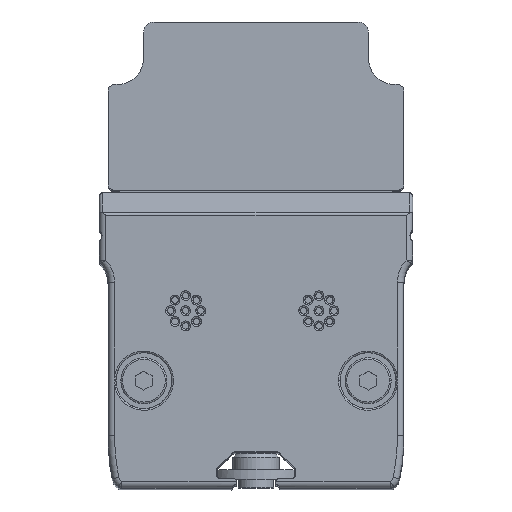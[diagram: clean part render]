
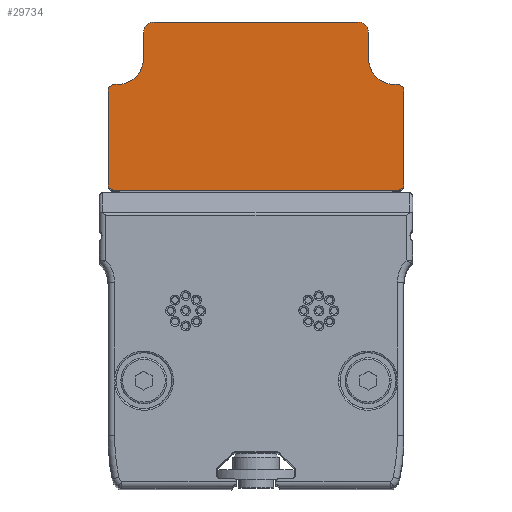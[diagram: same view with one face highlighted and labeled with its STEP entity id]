
A CAD part, top view. The second image highlights one B-rep face of the part: STEP entity #29734.
In plain terms, the highlighted planar face has unit normal (0, 0, 1).
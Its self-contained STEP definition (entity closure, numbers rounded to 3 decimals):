
#465 = CARTESIAN_POINT ( 'NONE',  ( 17.1, 0., 129. ) ) ;
#472 = DIRECTION ( 'NONE',  ( 0., 0., 1. ) ) ;
#539 = ORIENTED_EDGE ( 'NONE', *, *, #11176, .F. ) ;
#542 = DIRECTION ( 'NONE',  ( 0., 0., -1. ) ) ;
#615 = CARTESIAN_POINT ( 'NONE',  ( 17.1, 46.8, 129. ) ) ;
#768 = CARTESIAN_POINT ( 'NONE',  ( -17.1, 0., 129. ) ) ;
#1121 = VECTOR ( 'NONE', #17189, 1000. ) ;
#1289 = VERTEX_POINT ( 'NONE', #27738 ) ;
#1434 = ORIENTED_EDGE ( 'NONE', *, *, #31831, .T. ) ;
#1476 = LINE ( 'NONE', #24466, #8062 ) ;
#1670 = CARTESIAN_POINT ( 'NONE',  ( -22.5, 0., 129. ) ) ;
#1734 = CARTESIAN_POINT ( 'NONE',  ( 21.5, 38.9, 129. ) ) ;
#2101 = CARTESIAN_POINT ( 'NONE',  ( 22.5, 0., 129. ) ) ;
#2469 = ORIENTED_EDGE ( 'NONE', *, *, #21567, .F. ) ;
#2524 = VERTEX_POINT ( 'NONE', #20756 ) ;
#3177 = CARTESIAN_POINT ( 'NONE',  ( 0., 38.9, 129. ) ) ;
#3727 = CIRCLE ( 'NONE', #13192, 1. ) ;
#3848 = VERTEX_POINT ( 'NONE', #31940 ) ;
#4184 = DIRECTION ( 'NONE',  ( 0., 0., 1. ) ) ;
#4240 = ORIENTED_EDGE ( 'NONE', *, *, #14660, .F. ) ;
#4267 = CIRCLE ( 'NONE', #22744, 4. ) ;
#4474 = VERTEX_POINT ( 'NONE', #28626 ) ;
#4670 = VERTEX_POINT ( 'NONE', #14869 ) ;
#4756 = ORIENTED_EDGE ( 'NONE', *, *, #8715, .T. ) ;
#5017 = EDGE_CURVE ( 'NONE', #3848, #12443, #32694, .T. ) ;
#5363 = DIRECTION ( 'NONE',  ( 1., 0., 0. ) ) ;
#5492 = ORIENTED_EDGE ( 'NONE', *, *, #16455, .T. ) ;
#5756 = CARTESIAN_POINT ( 'NONE',  ( -22.5, 23.8, 129. ) ) ;
#6635 = CARTESIAN_POINT ( 'NONE',  ( -21.5, 22.8, 129. ) ) ;
#7107 = DIRECTION ( 'NONE',  ( 1., 0., 0. ) ) ;
#7149 = ORIENTED_EDGE ( 'NONE', *, *, #30581, .T. ) ;
#7240 = EDGE_CURVE ( 'NONE', #25825, #18856, #9662, .T. ) ;
#7390 = LINE ( 'NONE', #15478, #12830 ) ;
#7661 = EDGE_CURVE ( 'NONE', #4670, #9306, #7390, .T. ) ;
#7929 = VERTEX_POINT ( 'NONE', #25050 ) ;
#8062 = VECTOR ( 'NONE', #29436, 1000. ) ;
#8241 = ORIENTED_EDGE ( 'NONE', *, *, #5017, .T. ) ;
#8365 = LINE ( 'NONE', #768, #9465 ) ;
#8715 = EDGE_CURVE ( 'NONE', #4670, #3848, #20806, .T. ) ;
#8772 = DIRECTION ( 'NONE',  ( -1., 0., 0. ) ) ;
#8867 = VERTEX_POINT ( 'NONE', #25059 ) ;
#9264 = CARTESIAN_POINT ( 'NONE',  ( 21.5, 37.9, 129. ) ) ;
#9306 = VERTEX_POINT ( 'NONE', #6635 ) ;
#9465 = VECTOR ( 'NONE', #28882, 1000. ) ;
#9662 = CIRCLE ( 'NONE', #24974, 1.6 ) ;
#9969 = PLANE ( 'NONE',  #15812 ) ;
#10076 = CIRCLE ( 'NONE', #26968, 1. ) ;
#11176 = EDGE_CURVE ( 'NONE', #16381, #7929, #12459, .T. ) ;
#11253 = CARTESIAN_POINT ( 'NONE',  ( -15.5, 46.8, 129. ) ) ;
#11969 = CARTESIAN_POINT ( 'NONE',  ( -21.5, 38.9, 129. ) ) ;
#12443 = VERTEX_POINT ( 'NONE', #14084 ) ;
#12459 = CIRCLE ( 'NONE', #28296, 1.6 ) ;
#12830 = VECTOR ( 'NONE', #12995, 1000. ) ;
#12940 = DIRECTION ( 'NONE',  ( 0., 0., -1. ) ) ;
#12995 = DIRECTION ( 'NONE',  ( -1., 0., 0. ) ) ;
#13029 = DIRECTION ( 'NONE',  ( 1., 0., 0. ) ) ;
#13087 = LINE ( 'NONE', #3177, #21215 ) ;
#13108 = DIRECTION ( 'NONE',  ( 0., 0., -1. ) ) ;
#13192 = AXIS2_PLACEMENT_3D ( 'NONE', #9264, #14386, #7107 ) ;
#14084 = CARTESIAN_POINT ( 'NONE',  ( 22.5, 37.9, 129. ) ) ;
#14264 = DIRECTION ( 'NONE',  ( 1., 0., 0. ) ) ;
#14386 = DIRECTION ( 'NONE',  ( 0., 0., 1. ) ) ;
#14660 = EDGE_CURVE ( 'NONE', #18856, #1289, #23116, .T. ) ;
#14679 = VERTEX_POINT ( 'NONE', #5756 ) ;
#14869 = CARTESIAN_POINT ( 'NONE',  ( 21.5, 22.8, 129. ) ) ;
#15478 = CARTESIAN_POINT ( 'NONE',  ( 0., 22.8, 129. ) ) ;
#15725 = ORIENTED_EDGE ( 'NONE', *, *, #18777, .T. ) ;
#15733 = DIRECTION ( 'NONE',  ( -1., 0., 0. ) ) ;
#15812 = AXIS2_PLACEMENT_3D ( 'NONE', #17583, #23851, #15733 ) ;
#15913 = AXIS2_PLACEMENT_3D ( 'NONE', #17803, #21101, #21273 ) ;
#16166 = EDGE_CURVE ( 'NONE', #16381, #4474, #8365, .T. ) ;
#16283 = VECTOR ( 'NONE', #32377, 1000. ) ;
#16381 = VERTEX_POINT ( 'NONE', #20727 ) ;
#16455 = EDGE_CURVE ( 'NONE', #4474, #8867, #4267, .T. ) ;
#16954 = DIRECTION ( 'NONE',  ( 0., 0., 1. ) ) ;
#17125 = EDGE_CURVE ( 'NONE', #12443, #23379, #3727, .T. ) ;
#17189 = DIRECTION ( 'NONE',  ( 0., 1., 0. ) ) ;
#17271 = EDGE_CURVE ( 'NONE', #23408, #17704, #30652, .T. ) ;
#17351 = LINE ( 'NONE', #1670, #1121 ) ;
#17502 = CIRCLE ( 'NONE', #15913, 4. ) ;
#17583 = CARTESIAN_POINT ( 'NONE',  ( 0., 0., 129. ) ) ;
#17595 = DIRECTION ( 'NONE',  ( -1., 0., 0. ) ) ;
#17704 = VERTEX_POINT ( 'NONE', #18735 ) ;
#17803 = CARTESIAN_POINT ( 'NONE',  ( 21.1, 42.9, 129. ) ) ;
#18245 = EDGE_CURVE ( 'NONE', #14679, #17704, #17351, .T. ) ;
#18693 = AXIS2_PLACEMENT_3D ( 'NONE', #28385, #16954, #19431 ) ;
#18735 = CARTESIAN_POINT ( 'NONE',  ( -22.5, 37.9, 129. ) ) ;
#18777 = EDGE_CURVE ( 'NONE', #2524, #1289, #17502, .T. ) ;
#18856 = VERTEX_POINT ( 'NONE', #615 ) ;
#19431 = DIRECTION ( 'NONE',  ( 1., 0., 0. ) ) ;
#19448 = ORIENTED_EDGE ( 'NONE', *, *, #7240, .F. ) ;
#20727 = CARTESIAN_POINT ( 'NONE',  ( -17.1, 46.8, 129. ) ) ;
#20756 = CARTESIAN_POINT ( 'NONE',  ( 21.1, 38.9, 129. ) ) ;
#20806 = CIRCLE ( 'NONE', #18693, 1. ) ;
#21101 = DIRECTION ( 'NONE',  ( 0., 0., -1. ) ) ;
#21126 = ORIENTED_EDGE ( 'NONE', *, *, #16166, .T. ) ;
#21215 = VECTOR ( 'NONE', #28309, 1000. ) ;
#21273 = DIRECTION ( 'NONE',  ( 1., 0., 0. ) ) ;
#21549 = EDGE_LOOP ( 'NONE', ( #2469, #27355, #26090, #7149, #32182, #4756, #8241, #23685, #1434, #15725, #4240, #19448, #28629, #539, #21126, #5492 ) ) ;
#21567 = EDGE_CURVE ( 'NONE', #23408, #8867, #21969, .T. ) ;
#21969 = LINE ( 'NONE', #26284, #29296 ) ;
#22635 = DIRECTION ( 'NONE',  ( 0., -1., 0. ) ) ;
#22640 = CARTESIAN_POINT ( 'NONE',  ( -21.5, 37.9, 129. ) ) ;
#22701 = EDGE_CURVE ( 'NONE', #25825, #7929, #1476, .T. ) ;
#22744 = AXIS2_PLACEMENT_3D ( 'NONE', #22884, #13108, #5363 ) ;
#22884 = CARTESIAN_POINT ( 'NONE',  ( -21.1, 42.9, 129. ) ) ;
#23116 = LINE ( 'NONE', #465, #29601 ) ;
#23142 = CARTESIAN_POINT ( 'NONE',  ( 15.5, 48.4, 129. ) ) ;
#23379 = VERTEX_POINT ( 'NONE', #1734 ) ;
#23408 = VERTEX_POINT ( 'NONE', #11969 ) ;
#23685 = ORIENTED_EDGE ( 'NONE', *, *, #17125, .T. ) ;
#23851 = DIRECTION ( 'NONE',  ( 0., 0., 1. ) ) ;
#24466 = CARTESIAN_POINT ( 'NONE',  ( 0., 48.4, 129. ) ) ;
#24974 = AXIS2_PLACEMENT_3D ( 'NONE', #25197, #12940, #17595 ) ;
#25050 = CARTESIAN_POINT ( 'NONE',  ( -15.5, 48.4, 129. ) ) ;
#25059 = CARTESIAN_POINT ( 'NONE',  ( -21.1, 38.9, 129. ) ) ;
#25197 = CARTESIAN_POINT ( 'NONE',  ( 15.5, 46.8, 129. ) ) ;
#25825 = VERTEX_POINT ( 'NONE', #23142 ) ;
#26090 = ORIENTED_EDGE ( 'NONE', *, *, #18245, .F. ) ;
#26284 = CARTESIAN_POINT ( 'NONE',  ( 0., 38.9, 129. ) ) ;
#26968 = AXIS2_PLACEMENT_3D ( 'NONE', #29337, #4184, #14264 ) ;
#27355 = ORIENTED_EDGE ( 'NONE', *, *, #17271, .T. ) ;
#27738 = CARTESIAN_POINT ( 'NONE',  ( 17.1, 42.9, 129. ) ) ;
#28296 = AXIS2_PLACEMENT_3D ( 'NONE', #11253, #542, #8772 ) ;
#28309 = DIRECTION ( 'NONE',  ( -1., 0., 0. ) ) ;
#28385 = CARTESIAN_POINT ( 'NONE',  ( 21.5, 23.8, 129. ) ) ;
#28626 = CARTESIAN_POINT ( 'NONE',  ( -17.1, 42.9, 129. ) ) ;
#28629 = ORIENTED_EDGE ( 'NONE', *, *, #22701, .T. ) ;
#28882 = DIRECTION ( 'NONE',  ( 0., -1., 0. ) ) ;
#29296 = VECTOR ( 'NONE', #32070, 1000. ) ;
#29337 = CARTESIAN_POINT ( 'NONE',  ( -21.5, 23.8, 129. ) ) ;
#29436 = DIRECTION ( 'NONE',  ( -1., 0., 0. ) ) ;
#29601 = VECTOR ( 'NONE', #22635, 1000. ) ;
#29734 = ADVANCED_FACE ( 'NONE', ( #32644 ), #9969, .T. ) ;
#30581 = EDGE_CURVE ( 'NONE', #14679, #9306, #10076, .T. ) ;
#30652 = CIRCLE ( 'NONE', #31191, 1. ) ;
#31191 = AXIS2_PLACEMENT_3D ( 'NONE', #22640, #472, #13029 ) ;
#31831 = EDGE_CURVE ( 'NONE', #23379, #2524, #13087, .T. ) ;
#31940 = CARTESIAN_POINT ( 'NONE',  ( 22.5, 23.8, 129. ) ) ;
#32070 = DIRECTION ( 'NONE',  ( 1., 0., 0. ) ) ;
#32182 = ORIENTED_EDGE ( 'NONE', *, *, #7661, .F. ) ;
#32377 = DIRECTION ( 'NONE',  ( 0., 1., 0. ) ) ;
#32644 = FACE_OUTER_BOUND ( 'NONE', #21549, .T. ) ;
#32694 = LINE ( 'NONE', #2101, #16283 ) ;
